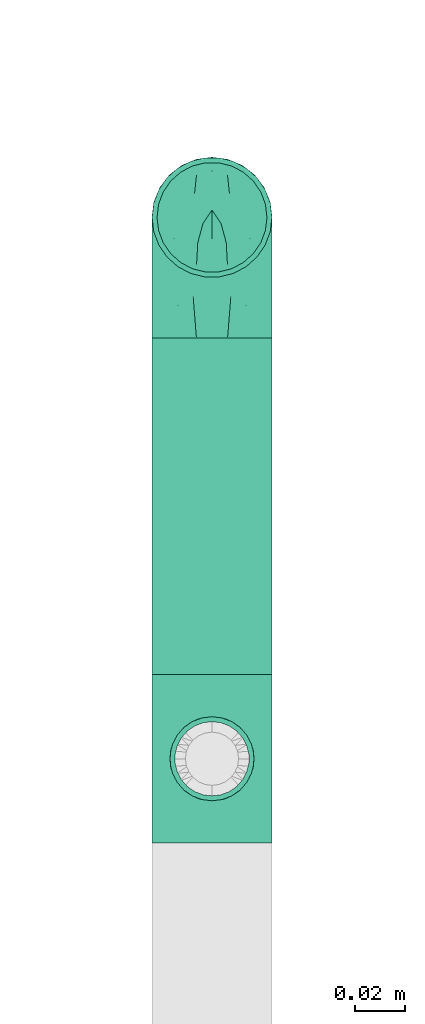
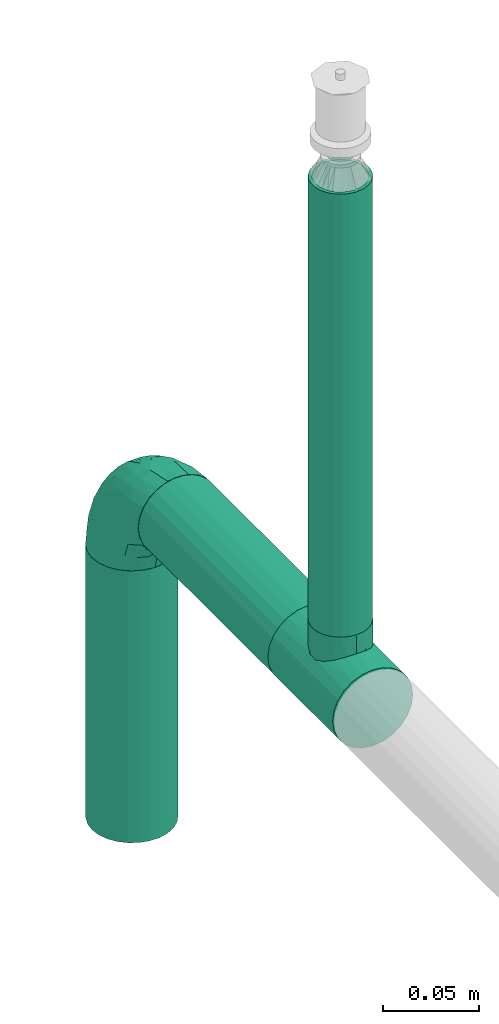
# One storey, part 9 of 63: 3 flow segments, 2 flow fittings.
"""IFC2X3 building model written with IfcOpenShell, lengths in millimetres."""

from ifc_helpers import new_model, entity, si_unit, converted_unit, derived_unit, direction, frame, origin_with_axes, origin_2d_with_axis, place, context, subcontext, project, spatial, hollow_circle, extrude, open_shell, surface_model, source, transform, mapped, type_object, element, save


model = new_model("IFC2X3")

# Units and contexts
model_context = context("Model", 3, precision=0.01, world=frame((0.0, 4.29681676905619e-09, 0.0)), true_north=direction((4.01073788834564e-13, 1.0)))
plan_context = context("Plan", 3, precision=0.01, world=frame((0.0, 4.29681676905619e-09, 0.0)), true_north=direction((4.01073788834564e-13, 1.0)))
body_context = subcontext(model_context, "Body", "Model", "MODEL_VIEW")
ifc_project = project(units=[converted_unit("PLANEANGLEUNIT", "DEGREE", entity("IfcPositiveLengthMeasure", 0.0174532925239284), si_unit("PLANEANGLEUNIT", "RADIAN"), dimensions=[0, 0, 0, 0, 0, 0, 0]), si_unit("AREAUNIT", "SQUARE_METRE"), si_unit("LENGTHUNIT", "METRE", prefix="MILLI"), si_unit("MASSUNIT", "GRAM", prefix="KILO"), si_unit("POWERUNIT", "WATT"), si_unit("PRESSUREUNIT", "PASCAL", prefix="KILO"), si_unit("FORCEUNIT", "NEWTON", prefix="KILO"), si_unit("ELECTRICVOLTAGEUNIT", "VOLT"), si_unit("ELECTRICCURRENTUNIT", "AMPERE"), si_unit("THERMODYNAMICTEMPERATUREUNIT", "DEGREE_CELSIUS"), si_unit("TIMEUNIT", "SECOND"), si_unit("VOLUMEUNIT", "CUBIC_METRE"), derived_unit("LINEARVELOCITYUNIT", [(si_unit("LENGTHUNIT", "METRE"), 1), (si_unit("TIMEUNIT", "SECOND"), -1)]), derived_unit("VOLUMETRICFLOWRATEUNIT", [(si_unit("VOLUMEUNIT", "CUBIC_METRE"), 1), (si_unit("TIMEUNIT", "SECOND"), -1)]), derived_unit("THERMALTRANSMITTANCEUNIT", [(si_unit("POWERUNIT", "WATT"), 1), (si_unit("THERMODYNAMICTEMPERATUREUNIT", "KELVIN"), -1), (si_unit("AREAUNIT", "SQUARE_METRE"), -1)]), derived_unit("SOUNDPRESSUREUNIT", [(si_unit("PRESSUREUNIT", "PASCAL"), 1)])], contexts=[model_context, plan_context])

# Site, building, storey
site_placement = place(None, frame((0.0, -4.29681676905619e-09, 0.0), z_axis=(0.0, 0.0, 1.0), x_axis=(1.0, 0.0, 0.0)))
site = spatial("IfcSite", under=ifc_project, at=site_placement, CompositionType="ELEMENT")
building_placement = place(site_placement, frame((0.0, 4.29681676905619e-09, 0.0), z_axis=(0.0, 0.0, 1.0), x_axis=(1.0, 0.0, 0.0)))
building = spatial("IfcBuilding", under=site, at=building_placement, Name="mc-building", CompositionType="ELEMENT")
storey_placement = place(building_placement, frame((0.0, 0.0, 207370.0), z_axis=(0.0, 0.0, 1.0), x_axis=(1.0, 0.0, 0.0)))
storey = spatial("IfcBuildingStorey", under=building, at=storey_placement, Name="Nivå E", CompositionType="ELEMENT", Elevation=207370.0)

# Flow fittings
pipe_fitting_type_1 = type_object("IfcPipeFittingType", Name="magi_pipe_fe_elbow_short_001", PredefinedType="BEND")
shared_shape_1 = source(origin_with_axes(), body_context, "Body", "SurfaceModel", [
    surface_model("IfcShellBasedSurfaceModel", [(-48.4, 6.26342, -23.37541), (-48.4, 0.0, -24.2), (-48.4, 17.11198, -17.11198), (-48.4, 12.1, -20.95781), (-48.4, 23.37541, -6.26342), (-48.4, 20.95781, -12.1), (-48.4, -12.1, -20.95781), (-48.4, -17.11198, -17.11198), (-48.4, -20.95781, -12.1), (-48.4, -6.26342, -23.37541), (-48.4, -23.37541, -6.26342), (-48.4, -24.2, 0.0), (-48.4, -23.37541, 6.26342), (-48.4, 23.37541, 6.26342), (-48.4, 6.26342, 23.37541), (-48.4, 20.95781, 12.1), (-48.4, 17.11198, 17.11198), (-48.4, 12.1, 20.95781), (-48.4, -12.1, 20.95781), (-48.4, -20.95781, 12.1), (-48.4, -17.11198, 17.11198), (-48.4, -6.26342, 23.37541), (-48.4, 0.0, 24.2), (-48.4, 24.2, 0.0), (-17.11198, 48.4, -17.11198), (0.0, 48.4, -24.2), (-6.26342, 48.4, -23.37541), (-12.1, 48.4, -20.95781), (-20.95781, 48.4, -12.1), (-23.37541, 48.4, -6.26342), (12.1, 48.4, -20.95781), (20.95781, 48.4, -12.1), (17.11198, 48.4, -17.11198), (6.26342, 48.4, -23.37541), (23.37541, 48.4, -6.26342), (23.37541, 48.4, 6.26342), (24.2, 48.4, 0.0), (-23.37541, 48.4, 6.26342), (-6.26342, 48.4, 23.37541), (-17.11198, 48.4, 17.11198), (-20.95781, 48.4, 12.1), (-12.1, 48.4, 20.95781), (12.1, 48.4, 20.95781), (17.11198, 48.4, 17.11198), (20.95781, 48.4, 12.1), (0.0, 48.4, 24.2), (6.26342, 48.4, 23.37541), (-24.2, 48.4, 0.0), (-35.50368, -18.80076, 13.58523), (-31.77913, -13.9618, 18.03279), (-34.50859, -21.43683, 0.0), (-21.39243, -15.41147, 12.21413), (-32.16301, -21.12203, 7.54749), (21.12203, 32.16301, 7.54749), (17.07617, 18.95745, 6.20374), (18.67365, 20.61718, 0.0), (-23.65565, 38.62451, 10.51816), (-20.21592, 37.67665, 15.89859), (-35.56981, -9.15108, 21.77256), (-36.96985, -3.20584, 23.78612), (-33.88786, 3.70953, 24.15875), (-8.84062, -10.8048, 0.0), (-18.95745, -17.07617, 6.20374), (-20.61718, -18.67365, 0.0), (-18.69715, -5.87343, 20.10488), (-24.09336, -0.21717, 23.45593), (-2.08262, -4.09091, 10.90396), (-0.40561, 0.49936, 14.45569), (-8.22634, -5.79523, 14.90978), (-37.83027, 20.17367, 15.88169), (-8.41063, 23.79825, 24.15658), (-17.92529, 17.92529, 23.61199), (-14.40991, 10.5752, 24.07534), (-41.86919, 14.6551, 19.71874), (-9.03342, 41.7434, 22.66763), (-3.31671, 36.19978, 24.14056), (-38.63654, 23.65174, 10.51655), (-38.25939, 25.77657, 5.32075), (-30.0475, 30.0475, 9.04616), (-37.30448, 9.49113, 22.86036), (-6.31688, 16.20853, 23.76192), (-12.02449, 4.43954, 22.59792), (-2.47225, 13.07459, 22.23951), (-4.32281, 4.32281, 19.78555), (13.9618, 31.77913, 18.03279), (15.41147, 21.39243, 12.21413), (18.80076, 35.50367, 13.58523), (-25.72741, 16.42033, 22.38358), (-26.59277, 10.36599, 23.76692), (3.20584, 36.96985, 23.78612), (9.15107, 35.56981, 21.77256), (5.87343, 18.69715, 20.10488), (21.43683, 34.50859, 0.0), (-23.74657, 5.93004, 24.18967), (-22.40302, 25.55556, 19.88516), (-33.3245, 16.42738, 20.3789), (-25.47357, 39.04012, 5.19167), (-30.32947, 31.74105, 4.25904), (11.04589, 19.60124, 16.55181), (-27.44219, 36.3, 0.0), (-10.46605, 32.79159, 23.04712), (-13.80953, 25.05111, 23.26361), (-17.54489, 31.27863, 20.33941), (-19.27982, 23.42922, 22.01925), (-14.78447, 40.57947, 19.81913), (-19.60124, -11.04589, 16.55181), (-25.09785, 32.07921, 13.69695), (-25.5093, 27.02629, 17.14196), (-31.08127, 26.00324, 13.49448), (0.21717, 24.09336, 23.45593), (5.51075, 8.40547, 15.32867), (-11.48597, -10.80284, 11.35932), (1.43689, -3.14326, 6.54995), (7.34882, 4.31024, 8.4514), (7.50574, 2.51208, 3.62663), (12.46453, 10.09451, 5.71609), (12.1504, 12.55391, 10.15678), (-36.3, 27.44219, 0.0), (-6.52237, -9.62364, 7.02633), (2.93595, -2.93595, 0.0), (10.8048, 8.84062, 0.0), (-19.60124, -11.04589, -16.55181), (-31.77913, -13.9618, -18.03279), (-18.69715, -5.87343, -20.10488), (-21.39243, -15.41147, -12.21413), (-37.67665, 20.21591, -15.89859), (-40.57947, 14.78447, -19.81913), (-39.04012, 25.47357, -5.19167), (-32.16301, -21.12203, -7.54749), (-30.0475, 30.0475, -9.04616), (-38.62452, 23.65565, -10.51816), (-18.95745, -17.07617, -6.20374), (-23.42922, 19.27982, -22.01926), (-25.05111, 13.80953, -23.26361), (-31.27863, 17.54489, -20.33941), (-14.6551, 41.86919, -19.71874), (-20.17367, 37.83026, -15.88169), (9.15108, 35.56981, -21.77256), (5.87343, 18.69715, -20.10488), (0.21717, 24.09336, -23.45593), (-41.7434, 9.03342, -22.66763), (-35.50368, -18.80076, -13.58523), (-35.56981, -9.15108, -21.77256), (-16.42033, 25.72741, -22.38358), (-9.49113, 37.30447, -22.86036), (-10.36599, 26.59277, -23.76692), (-36.96985, -3.20584, -23.78612), (-23.79826, 8.41063, -24.15658), (-17.92529, 17.92529, -23.61199), (-10.5752, 14.40991, -24.07534), (-36.19978, 3.31671, -24.14056), (-25.77657, 38.25939, -5.32075), (-23.65174, 38.63654, -10.51655), (-32.79159, 10.46605, -23.04712), (-31.74105, 30.32946, -4.25904), (-5.93004, 23.74657, -24.18967), (-25.55556, 22.40302, -19.88516), (-16.42738, 33.3245, -20.3789), (3.20584, 36.96985, -23.78612), (-3.70953, 33.88785, -24.15875), (18.80076, 35.50367, -13.58523), (13.9618, 31.77913, -18.03279), (7.50574, 2.51208, -3.62663), (12.46453, 10.09451, -5.71609), (-16.20853, 6.31688, -23.76192), (-4.43954, 12.02449, -22.59792), (-13.07459, 2.47225, -22.23951), (1.43689, -3.14326, -6.54995), (-6.52237, -9.62364, -7.02632), (-2.08262, -4.09091, -10.90396), (15.41147, 21.39243, -12.21413), (21.12203, 32.16301, -7.54749), (17.07617, 18.95745, -6.20374), (-32.07921, 25.09785, -13.69695), (11.04589, 19.60124, -16.55181), (12.1504, 12.55391, -10.15678), (5.51075, 8.40547, -15.32867), (-27.02629, 25.5093, -17.14196), (-26.00324, 31.08127, -13.49448), (-24.09336, -0.21717, -23.45593), (-4.32281, 4.32281, -19.78555), (-8.22634, -5.79524, -14.90978), (-11.48597, -10.80284, -11.35931), (-0.40561, 0.49936, -14.45569), (7.34882, 4.31024, -8.4514)], [open_shell([[[0, 1, 2]], [[3, 0, 2]], [[4, 5, 2]], [[6, 2, 1]], [[4, 2, 6]], [[7, 8, 6]], [[1, 9, 6]], [[8, 10, 6]], [[6, 10, 4]], [[11, 12, 10]], [[13, 4, 10]], [[14, 13, 10]], [[15, 13, 16]], [[13, 14, 17]], [[16, 13, 17]], [[10, 18, 14]], [[19, 20, 12]], [[20, 10, 12]], [[21, 22, 18]], [[20, 18, 10]], [[18, 22, 14]], [[23, 4, 13]], [[24, 25, 26]], [[24, 26, 27]], [[24, 28, 29]], [[25, 24, 30]], [[30, 24, 29]], [[30, 31, 32]], [[30, 33, 25]], [[30, 34, 31]], [[29, 34, 30]], [[34, 35, 36]], [[34, 29, 37]], [[34, 37, 38]], [[39, 37, 40]], [[41, 38, 37]], [[41, 37, 39]], [[38, 42, 34]], [[35, 43, 44]], [[35, 34, 43]], [[42, 45, 46]], [[34, 42, 43]], [[38, 45, 42]], [[37, 29, 47]], [[20, 48, 49]], [[12, 11, 50]], [[51, 48, 52]], [[53, 54, 55]], [[48, 20, 19]], [[12, 52, 19]], [[40, 56, 57]], [[49, 18, 20]], [[49, 58, 18]], [[22, 59, 60]], [[61, 62, 63]], [[58, 64, 65]], [[66, 67, 68]], [[15, 16, 69]], [[70, 71, 72]], [[17, 73, 16]], [[21, 59, 22]], [[38, 74, 75]], [[22, 60, 14]], [[15, 69, 76]], [[16, 73, 69]], [[23, 13, 77]], [[13, 15, 76]], [[77, 76, 78]], [[14, 79, 17]], [[80, 81, 82]], [[68, 83, 64]], [[84, 43, 42]], [[85, 86, 84]], [[87, 79, 88]], [[18, 58, 21]], [[45, 89, 46]], [[53, 35, 44]], [[45, 38, 75]], [[84, 90, 91]], [[44, 86, 53]], [[92, 35, 53]], [[86, 44, 43]], [[90, 42, 46]], [[53, 55, 92]], [[88, 93, 72]], [[54, 53, 85]], [[87, 94, 95]], [[78, 96, 97]], [[98, 84, 91]], [[99, 96, 47]], [[79, 14, 60]], [[96, 78, 56]], [[62, 52, 63]], [[57, 39, 40]], [[100, 70, 75]], [[101, 102, 103]], [[12, 50, 52]], [[104, 41, 39]], [[74, 38, 41]], [[57, 102, 104]], [[105, 64, 49]], [[90, 84, 42]], [[40, 37, 56]], [[56, 106, 57]], [[102, 57, 107]], [[95, 107, 69]], [[76, 108, 78]], [[100, 101, 70]], [[89, 75, 109]], [[64, 58, 49]], [[63, 52, 50]], [[59, 58, 65]], [[105, 49, 51]], [[64, 83, 81]], [[89, 90, 46]], [[36, 35, 92]], [[109, 82, 91]], [[109, 91, 90]], [[91, 83, 110]], [[111, 68, 105]], [[66, 68, 111]], [[62, 51, 52]], [[66, 112, 113]], [[114, 115, 113]], [[98, 85, 84]], [[52, 48, 19]], [[49, 48, 51]], [[84, 86, 43]], [[53, 86, 85]], [[88, 79, 60]], [[73, 79, 95]], [[96, 56, 37]], [[78, 108, 106]], [[87, 103, 94]], [[100, 74, 104]], [[108, 69, 107]], [[78, 97, 77]], [[88, 72, 71]], [[109, 75, 70]], [[81, 72, 65]], [[70, 72, 80]], [[75, 89, 45]], [[90, 89, 109]], [[58, 59, 21]], [[60, 59, 65]], [[67, 83, 68]], [[110, 113, 116]], [[88, 60, 93]], [[87, 88, 71]], [[103, 87, 71]], [[79, 87, 95]], [[101, 103, 71]], [[94, 103, 102]], [[47, 96, 37]], [[96, 99, 97]], [[99, 117, 97]], [[97, 117, 77]], [[23, 77, 117]], [[13, 76, 77]], [[60, 65, 93]], [[65, 72, 93]], [[70, 101, 71]], [[102, 101, 100]], [[69, 108, 76]], [[106, 108, 107]], [[57, 106, 107]], [[78, 106, 56]], [[57, 104, 39]], [[100, 104, 102]], [[102, 107, 94]], [[95, 94, 107]], [[64, 81, 65]], [[82, 81, 83]], [[91, 82, 83]], [[80, 82, 109]], [[70, 80, 109]], [[81, 80, 72]], [[79, 73, 17]], [[69, 73, 95]], [[104, 74, 41]], [[75, 74, 100]], [[62, 61, 118]], [[111, 62, 118]], [[113, 115, 116]], [[119, 118, 61]], [[111, 105, 51]], [[113, 112, 114]], [[120, 55, 54]], [[68, 64, 105]], [[91, 110, 98]], [[116, 98, 110]], [[62, 111, 51]], [[66, 111, 118]], [[112, 66, 118]], [[67, 113, 110]], [[118, 119, 112]], [[114, 112, 119]], [[119, 120, 114]], [[115, 120, 54]], [[120, 115, 114]], [[116, 54, 85]], [[54, 116, 115]], [[116, 85, 98]], [[113, 67, 66]], [[83, 67, 110]], [[121, 122, 123]], [[122, 121, 124]], [[5, 125, 2]], [[2, 126, 3]], [[117, 127, 23]], [[50, 10, 128]], [[127, 129, 130]], [[128, 131, 63]], [[132, 133, 134]], [[24, 135, 136]], [[137, 138, 139]], [[3, 140, 0]], [[128, 8, 141]], [[142, 6, 9]], [[128, 63, 50]], [[5, 4, 130]], [[8, 7, 141]], [[143, 144, 145]], [[146, 9, 1]], [[147, 148, 149]], [[8, 128, 10]], [[124, 141, 122]], [[150, 1, 0]], [[151, 152, 129]], [[125, 134, 126]], [[153, 147, 150]], [[127, 154, 129]], [[145, 155, 149]], [[47, 29, 151]], [[143, 156, 157]], [[152, 29, 28]], [[25, 158, 159]], [[122, 7, 6]], [[24, 27, 135]], [[144, 27, 26]], [[32, 160, 161]], [[25, 33, 158]], [[120, 162, 163]], [[130, 125, 5]], [[24, 136, 28]], [[0, 140, 150]], [[30, 161, 137]], [[142, 122, 6]], [[25, 159, 26]], [[164, 165, 166]], [[167, 168, 169]], [[31, 160, 32]], [[161, 30, 32]], [[170, 160, 171]], [[131, 128, 124]], [[36, 92, 34]], [[34, 92, 171]], [[172, 171, 55]], [[34, 171, 31]], [[144, 26, 159]], [[130, 173, 125]], [[174, 175, 176]], [[136, 152, 28]], [[30, 137, 33]], [[122, 142, 123]], [[134, 125, 177]], [[157, 177, 136]], [[152, 178, 129]], [[153, 133, 147]], [[146, 150, 179]], [[146, 142, 9]], [[11, 10, 50]], [[179, 166, 123]], [[179, 123, 142]], [[123, 180, 181]], [[138, 137, 161]], [[55, 171, 92]], [[158, 137, 139]], [[174, 161, 170]], [[138, 180, 165]], [[180, 138, 176]], [[124, 121, 182]], [[176, 183, 180]], [[61, 131, 168]], [[169, 168, 182]], [[172, 170, 171]], [[122, 141, 7]], [[128, 141, 124]], [[171, 160, 31]], [[161, 160, 170]], [[145, 144, 159]], [[135, 144, 157]], [[127, 130, 4]], [[129, 178, 173]], [[143, 132, 156]], [[153, 140, 126]], [[178, 136, 177]], [[129, 154, 151]], [[145, 149, 148]], [[179, 150, 147]], [[165, 149, 139]], [[147, 149, 164]], [[150, 146, 1]], [[142, 146, 179]], [[137, 158, 33]], [[159, 158, 139]], [[174, 138, 161]], [[184, 169, 183]], [[145, 159, 155]], [[143, 145, 148]], [[132, 143, 148]], [[144, 143, 157]], [[133, 132, 148]], [[156, 132, 134]], [[23, 127, 4]], [[127, 117, 154]], [[117, 99, 154]], [[154, 99, 151]], [[47, 151, 99]], [[29, 152, 151]], [[159, 139, 155]], [[139, 149, 155]], [[147, 133, 148]], [[134, 133, 153]], [[136, 178, 152]], [[173, 178, 177]], [[125, 173, 177]], [[129, 173, 130]], [[125, 126, 2]], [[153, 126, 134]], [[134, 177, 156]], [[157, 156, 177]], [[138, 165, 139]], [[166, 165, 180]], [[123, 166, 180]], [[164, 166, 179]], [[147, 164, 179]], [[165, 164, 149]], [[144, 135, 27]], [[136, 135, 157]], [[126, 140, 3]], [[150, 140, 153]], [[182, 131, 124]], [[168, 119, 61]], [[119, 167, 162]], [[63, 131, 61]], [[172, 163, 175]], [[172, 55, 120]], [[123, 181, 121]], [[182, 121, 181]], [[175, 174, 170]], [[176, 138, 174]], [[169, 182, 181]], [[131, 182, 168]], [[183, 169, 181]], [[167, 169, 184]], [[162, 167, 184]], [[119, 168, 167]], [[163, 162, 184]], [[120, 119, 162]], [[175, 163, 184]], [[120, 163, 172]], [[176, 175, 184]], [[172, 175, 170]], [[180, 183, 181]], [[184, 183, 176]]])]),
])
flow_fitting_1_placement = place(storey_placement, frame((719641.29045, 439629.40604, 2700.0), z_axis=(1.0, 0.0, 0.0), x_axis=(0.0, 0.0, 1.0)))
element("IfcFlowFitting", 1, at=flow_fitting_1_placement, inside=storey, type_object=pipe_fitting_type_1, Name="magi_pipe_fe_elbow_short_001", context=body_context, shape_type="MappedRepresentation", body=[
    mapped(shared_shape_1, transform((0.0, 0.0, 0.0), scale=1.0)),
])
pipe_fitting_type_2 = type_object("IfcPipeFittingType", Name="magi_pipe_fe_tee_centric_90_NOR", PredefinedType="JUNCTION")
shared_shape_2 = source(origin_with_axes(), body_context, "Body", "SurfaceModel", [
    surface_model("IfcShellBasedSurfaceModel", [(-33.8, 0.0, -24.2), (-33.8, -6.26342, -23.37541), (-33.8, 6.26342, -23.37541), (-33.8, 12.1, -20.95781), (-33.8, 17.11198, -17.11198), (-33.8, 20.95781, -12.1), (-33.8, -23.37541, -6.26342), (-33.8, 23.37541, -6.26342), (-33.8, -17.11198, -17.11198), (-33.8, -20.95781, -12.1), (-33.8, -12.1, -20.95781), (-33.8, -24.2, 0.0), (-33.8, -23.37541, 6.26342), (-33.8, 20.95781, 12.1), (-33.8, 23.37541, 6.26342), (-33.8, 24.2, 0.0), (-33.8, 12.1, 20.95781), (-33.8, 17.11198, 17.11198), (-33.8, -17.11198, 17.11198), (-33.8, 6.26342, 23.37541), (-33.8, -20.95781, 12.1), (-33.8, -12.1, 20.95781), (-33.8, -6.26342, 23.37541), (-33.8, 0.0, 24.2), (33.8, 6.26342, -23.37541), (33.8, -6.26342, -23.37541), (33.8, 0.0, -24.2), (33.8, 17.11198, -17.11198), (33.8, 12.1, -20.95781), (33.8, -23.37541, -6.26342), (33.8, 20.95781, -12.1), (33.8, 23.37541, -6.26342), (33.8, -17.11198, -17.11198), (33.8, -12.1, -20.95781), (33.8, -20.95781, -12.1), (33.8, -24.2, 0.0), (33.8, 24.2, 0.0), (33.8, 23.37541, 6.26342), (33.8, 20.95781, 12.1), (33.8, -23.37541, 6.26342), (33.8, -17.11198, 17.11198), (33.8, 12.1, 20.95781), (33.8, 17.11198, 17.11198), (33.8, 6.26342, 23.37541), (33.8, -20.95781, 12.1), (33.8, -12.1, 20.95781), (33.8, 0.0, 24.2), (33.8, -6.26342, 23.37541), (15.81824, -23.45734, 5.94922), (16.9, -24.2, 0.0), (12.87025, -21.57947, 10.95293), (33.8, -19.0349, 14.60599), (8.52813, -19.30697, 14.59044), (3.03527, -17.5853, 16.6252), (-3.04044, -17.58619, 16.62425), (-8.52961, -19.30762, 14.58958), (-33.8, -19.0349, 14.60599), (-16.9, -24.2, 0.0), (-15.81885, -23.45775, 5.9476), (-12.87368, -21.58151, 10.9489), (3.03527, -17.5853, -16.6252), (33.8, -19.0349, -14.60599), (8.52813, -19.30697, -14.59044), (-8.52961, -19.30762, -14.58958), (-33.8, -19.0349, -14.60599), (12.87025, -21.57947, -10.95293), (-3.04044, -17.58619, -16.62425), (15.81824, -23.45734, -5.94922), (-12.87368, -21.58151, -10.9489), (-15.81885, -23.45775, -5.9476), (4.37404, -36.3, -16.32415), (-16.9, -36.3, 0.0), (0.0, -36.3, -16.9), (14.63583, -36.3, -8.45), (8.45, -36.3, -14.63583), (16.32415, -36.3, -4.37404), (11.9501, -36.3, -11.9501), (-11.9501, -36.3, -11.9501), (-8.45, -36.3, -14.63583), (-4.37404, -36.3, -16.32415), (-14.63583, -36.3, -8.45), (-16.32415, -36.3, -4.37404), (16.9, -36.3, 0.0), (8.45, -36.3, 14.63583), (16.32415, -36.3, 4.37404), (14.63583, -36.3, 8.45), (-8.45, -36.3, 14.63583), (11.9501, -36.3, 11.9501), (4.37404, -36.3, 16.32415), (-16.32415, -36.3, 4.37404), (-11.9501, -36.3, 11.9501), (-14.63583, -36.3, 8.45), (0.0, -36.3, 16.9), (-4.37404, -36.3, 16.32415), (-16.35943, -23.82888, 2.9738), (16.35912, -23.82867, 2.97461), (-0.00259, -17.58575, 16.62472), (16.35912, -23.82867, -2.97461), (-0.00259, -17.58575, -16.62472), (-16.35943, -23.82888, -2.9738)], [open_shell([[[0, 1, 2]], [[3, 2, 4]], [[5, 2, 6]], [[4, 2, 5]], [[7, 5, 6]], [[8, 9, 10]], [[1, 10, 9]], [[1, 9, 2]], [[9, 6, 2]], [[6, 11, 7]], [[11, 12, 7]], [[13, 14, 15]], [[13, 15, 12]], [[16, 17, 18]], [[12, 17, 13]], [[19, 16, 18]], [[20, 18, 12]], [[18, 17, 12]], [[21, 22, 18]], [[23, 18, 22]], [[18, 23, 19]], [[7, 12, 15]], [[24, 25, 26]], [[27, 24, 28]], [[29, 24, 30]], [[30, 24, 27]], [[29, 30, 31]], [[25, 32, 33]], [[32, 25, 34]], [[24, 34, 25]], [[24, 29, 34]], [[31, 35, 29]], [[31, 36, 35]], [[36, 37, 38]], [[39, 36, 38]], [[40, 38, 41]], [[41, 38, 42]], [[40, 41, 43]], [[39, 40, 44]], [[39, 38, 40]], [[45, 46, 47]], [[46, 45, 40]], [[43, 46, 40]], [[36, 39, 35]], [[35, 39, 48]], [[48, 49, 35]], [[39, 50, 48]], [[51, 40, 52]], [[52, 50, 44]], [[53, 52, 40]], [[54, 53, 21]], [[44, 50, 39]], [[55, 18, 56]], [[57, 58, 11]], [[12, 11, 58]], [[58, 59, 12]], [[55, 54, 18]], [[55, 20, 59]], [[20, 55, 56]], [[59, 20, 12]], [[18, 54, 21]], [[52, 44, 51]], [[53, 40, 45]], [[23, 47, 46]], [[22, 45, 47]], [[19, 46, 43]], [[38, 37, 14]], [[17, 41, 42]], [[13, 42, 38]], [[43, 41, 16]], [[15, 37, 36]], [[21, 45, 22]], [[22, 47, 23]], [[19, 23, 46]], [[43, 16, 19]], [[16, 41, 17]], [[13, 17, 42]], [[14, 13, 38]], [[37, 15, 14]], [[45, 21, 53]], [[5, 31, 30]], [[7, 36, 31]], [[4, 30, 27]], [[26, 25, 1]], [[2, 28, 24]], [[0, 24, 26]], [[27, 28, 3]], [[10, 25, 33]], [[15, 36, 7]], [[7, 31, 5]], [[4, 5, 30]], [[27, 3, 4]], [[3, 28, 2]], [[0, 2, 24]], [[1, 0, 26]], [[25, 10, 1]], [[33, 60, 10]], [[61, 34, 62]], [[63, 9, 64]], [[62, 60, 32]], [[34, 65, 62]], [[66, 10, 60]], [[29, 35, 67]], [[67, 65, 29]], [[49, 67, 35]], [[29, 65, 34]], [[66, 63, 8]], [[62, 32, 61]], [[64, 8, 63]], [[63, 68, 9]], [[8, 10, 66]], [[68, 69, 6]], [[69, 11, 6]], [[11, 69, 57]], [[68, 6, 9]], [[60, 33, 32]], [[70, 71, 72]], [[73, 70, 74]], [[73, 75, 70]], [[73, 74, 76]], [[71, 70, 75]], [[72, 77, 78]], [[78, 79, 72]], [[80, 71, 81]], [[77, 72, 80]], [[71, 80, 72]], [[75, 82, 71]], [[83, 82, 84]], [[83, 84, 85]], [[86, 71, 83]], [[83, 85, 87]], [[86, 83, 88]], [[89, 90, 91]], [[90, 89, 86]], [[86, 92, 93]], [[89, 71, 86]], [[88, 92, 86]], [[83, 71, 82]], [[89, 94, 71]], [[59, 91, 90]], [[89, 91, 58]], [[90, 86, 55]], [[89, 58, 94]], [[94, 57, 71]], [[58, 91, 59]], [[95, 48, 84]], [[55, 93, 54]], [[55, 59, 90]], [[92, 53, 96]], [[55, 86, 93]], [[53, 92, 88]], [[83, 52, 88]], [[87, 85, 50]], [[87, 52, 83]], [[48, 85, 84]], [[87, 50, 52]], [[52, 53, 88]], [[82, 95, 84]], [[48, 50, 85]], [[95, 82, 49]], [[92, 54, 93]], [[96, 54, 92]], [[75, 97, 82]], [[65, 73, 76]], [[75, 73, 67]], [[76, 74, 62]], [[97, 49, 82]], [[67, 73, 65]], [[62, 70, 60]], [[62, 65, 76]], [[72, 66, 98]], [[62, 74, 70]], [[99, 71, 57]], [[99, 69, 81]], [[75, 67, 97]], [[79, 66, 72]], [[69, 80, 81]], [[77, 80, 68]], [[72, 60, 70]], [[79, 63, 66]], [[63, 79, 78]], [[78, 77, 63]], [[63, 77, 68]], [[68, 80, 69]], [[71, 99, 81]], [[98, 60, 72]]])]),
])
flow_fitting_2_placement = place(storey_placement, frame((719641.29045, 439411.81651, 2700.0), z_axis=(-1.0, 0.0, 0.0), x_axis=(0.0, 1.0, 0.0)))
element("IfcFlowFitting", 2, at=flow_fitting_2_placement, inside=storey, type_object=pipe_fitting_type_2, Name="magi_pipe_fe_tee_centric_90_NOR", context=body_context, shape_type="MappedRepresentation", body=[
    mapped(shared_shape_2, transform((0.0, 0.0, 0.0), scale=1.0)),
])

# Flow segments
pipe_segment_type = type_object("IfcPipeSegmentType", Name="Stålrør normaltykke", PredefinedType="RIGIDSEGMENT")
shared_shape_3 = source(origin_with_axes(), body_context, "Body", "SweptSolid", [
    extrude(hollow_circle(Radius=24.1, WallThickness=2.0, at=origin_2d_with_axis()), frame((0.0, 0.0, 0.0), z_axis=(1.0, 0.0, 0.0), x_axis=(0.0, 1.0, 0.0)), (0.0, 0.0, 1.0), 173.2),
])
flow_segment_1_placement = place(storey_placement, frame((719641.29045, 439629.40604, 2478.39999999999), z_axis=(0.0, 1.0, 0.0), x_axis=(0.0, 0.0, 1.0)))
element("IfcFlowSegment", 3, at=flow_segment_1_placement, inside=storey, type_object=pipe_segment_type, Name="Stålrør normaltykke", context=body_context, shape_type="MappedRepresentation", body=[
    mapped(shared_shape_3, transform((0.0, 0.0, 0.0), scale=1.0)),
])
shared_shape_4 = source(origin_with_axes(), body_context, "Body", "SweptSolid", [
    extrude(hollow_circle(Radius=16.9, WallThickness=2.0, at=origin_2d_with_axis()), frame((0.0, 0.0, 0.0), z_axis=(1.0, 0.0, 0.0), x_axis=(0.0, 1.0, 0.0)), (0.0, 0.0, 1.0), 282.1),
])
flow_segment_2_placement = place(storey_placement, frame((719641.29045, 439411.81651, 2736.29999999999), z_axis=(1.0, 0.0, 0.0), x_axis=(0.0, 0.0, 1.0)))
element("IfcFlowSegment", 4, at=flow_segment_2_placement, inside=storey, type_object=pipe_segment_type, Name="Stålrør normaltykke", context=body_context, shape_type="MappedRepresentation", body=[
    mapped(shared_shape_4, transform((0.0, 0.0, 0.0), scale=1.0)),
])
shared_shape_5 = source(origin_with_axes(), body_context, "Body", "SweptSolid", [
    extrude(hollow_circle(Radius=24.1, WallThickness=2.0, at=origin_2d_with_axis()), frame((0.0, 0.0, 0.0), z_axis=(1.0, 0.0, 0.0), x_axis=(0.0, 1.0, 0.0)), (0.0, 0.0, 1.0), 135.4),
])
flow_segment_3_placement = place(storey_placement, frame((719641.29045, 439581.00604, 2700.0), z_axis=(0.0, 0.0, 1.0), x_axis=(0.0, -1.0, 0.0)))
element("IfcFlowSegment", 5, at=flow_segment_3_placement, inside=storey, type_object=pipe_segment_type, Name="Stålrør normaltykke", context=body_context, shape_type="MappedRepresentation", body=[
    mapped(shared_shape_5, transform((0.0, 0.0, 0.0), scale=1.0)),
])

save(model, "model.ifc")
